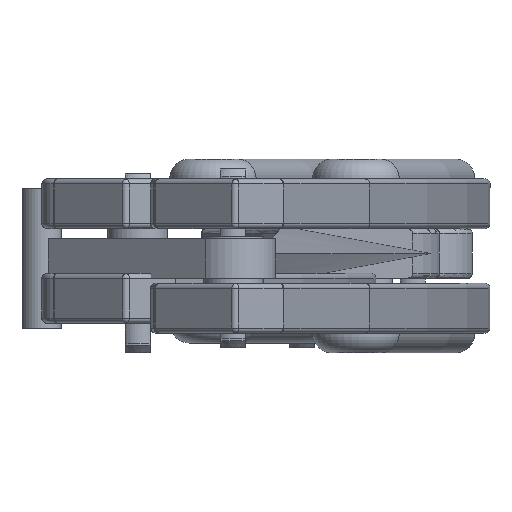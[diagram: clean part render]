
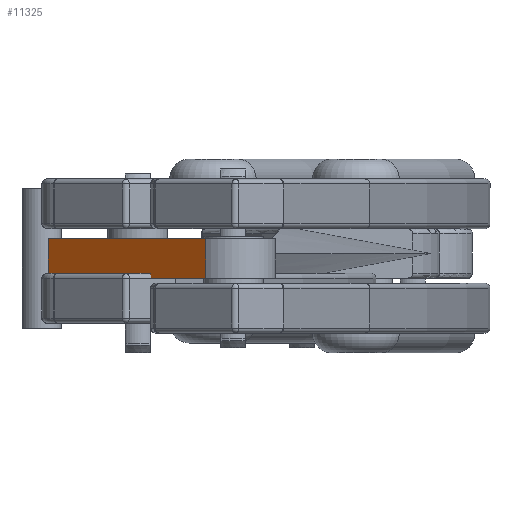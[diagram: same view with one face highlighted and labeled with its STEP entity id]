
A CAD part, left-side view. The second image highlights one B-rep face of the part: STEP entity #11325.
In plain terms, the highlighted planar face has unit normal (-0.753, 0.658, 0) as drawn and (1, 0, 0) by its records, which use the part's own axes.
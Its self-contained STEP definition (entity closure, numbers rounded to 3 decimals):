
#663=PLANE('',#13140);
#1173=LINE('',#22265,#1657);
#1174=LINE('',#22270,#1658);
#1177=LINE('',#22282,#1661);
#1180=LINE('',#22289,#1664);
#1657=VECTOR('',#16789,10.);
#1658=VECTOR('',#16796,10.);
#1661=VECTOR('',#16809,10.);
#1664=VECTOR('',#16818,10.);
#2669=FACE_OUTER_BOUND('',#3456,.T.);
#3456=EDGE_LOOP('',(#10255,#10256,#10257,#10258));
#5482=VERTEX_POINT('',#22259);
#5484=VERTEX_POINT('',#22263);
#5485=VERTEX_POINT('',#22269);
#5489=VERTEX_POINT('',#22281);
#7078=EDGE_CURVE('',#5482,#5484,#1173,.T.);
#7079=EDGE_CURVE('',#5482,#5485,#1174,.T.);
#7085=EDGE_CURVE('',#5489,#5485,#1177,.T.);
#7089=EDGE_CURVE('',#5489,#5484,#1180,.T.);
#10255=ORIENTED_EDGE('',*,*,#7078,.T.);
#10256=ORIENTED_EDGE('',*,*,#7089,.F.);
#10257=ORIENTED_EDGE('',*,*,#7085,.T.);
#10258=ORIENTED_EDGE('',*,*,#7079,.F.);
#11325=ADVANCED_FACE('',(#2669),#663,.T.);
#13140=AXIS2_PLACEMENT_3D('',#22288,#16816,#16817);
#16789=DIRECTION('',(0.,0.,1.));
#16796=DIRECTION('',(0.,-1.,0.));
#16809=DIRECTION('',(0.,0.,-1.));
#16816=DIRECTION('center_axis',(1.,0.,0.));
#16817=DIRECTION('ref_axis',(0.,1.,0.));
#16818=DIRECTION('',(0.,1.,0.));
#22259=CARTESIAN_POINT('',(4.25,20.985,-2.));
#22263=CARTESIAN_POINT('',(4.25,20.985,2.));
#22265=CARTESIAN_POINT('',(4.25,20.985,0.));
#22269=CARTESIAN_POINT('',(4.25,0.,-2.));
#22270=CARTESIAN_POINT('',(4.25,0.,-2.));
#22281=CARTESIAN_POINT('',(4.25,0.,2.));
#22282=CARTESIAN_POINT('',(4.25,0.,0.));
#22288=CARTESIAN_POINT('Origin',(4.25,0.,0.));
#22289=CARTESIAN_POINT('',(4.25,0.,2.));
